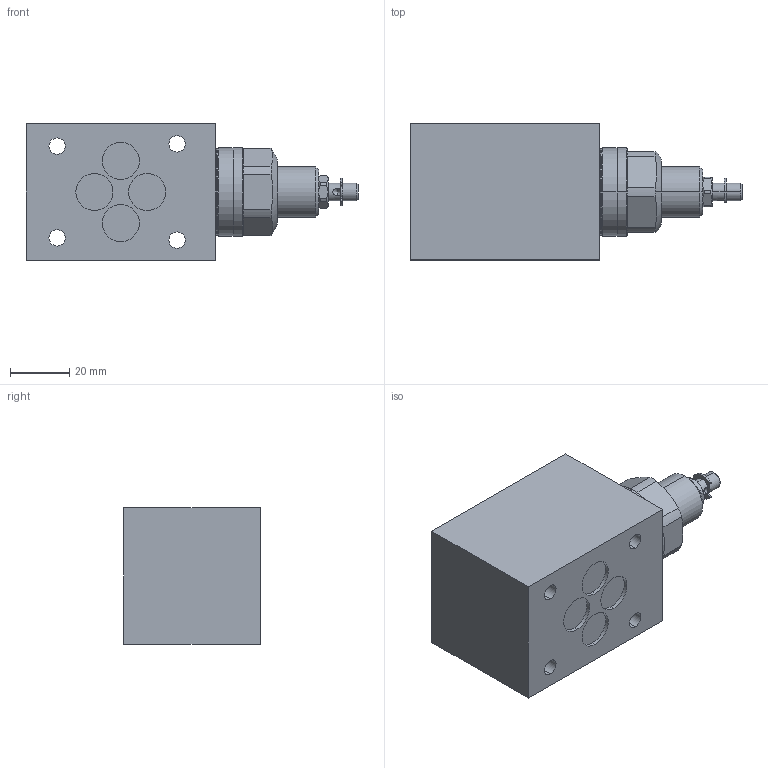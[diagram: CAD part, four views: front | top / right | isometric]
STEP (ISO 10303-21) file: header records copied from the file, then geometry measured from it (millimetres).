
FILE_DESCRIPTION (( 'STEP AP214' ), '1' );
FILE_NAME ('QZSFA06-A_B.STEP', '2017-04-19T11:14:17', ( '' ), ( '' ), 'SwSTEP 2.0', 'SolidWorks 2016', '' );
FILE_SCHEMA (( 'AUTOMOTIVE_DESIGN' ));
Length unit declared in the file: millimetre
Products named in the file (1): QZSFA06-A_B
Bounding box: 112.1 x 46 x 46 mm (x, y, z)
Volume: 146303.8 mm3; surface area: 23902.5 mm2
Topology: 3 solids, 4 shells, 200 faces, 476 edges, 296 vertices
Faces by surface type: cylinder 83, plane 71, cone 36, torus 10
Entity records: 8225 total; most frequent: CARTESIAN_POINT 1247, DIRECTION 1061, ORIENTED_EDGE 936, EDGE_CURVE 468, AXIS2_PLACEMENT_3D 438, VERTEX_POINT 296, CIRCLE 237, EDGE_LOOP 230
